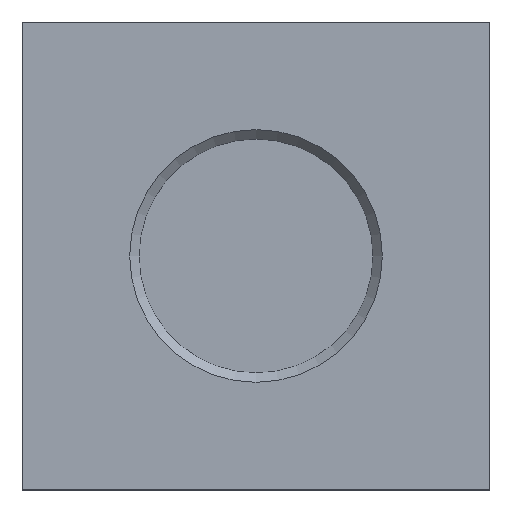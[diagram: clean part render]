
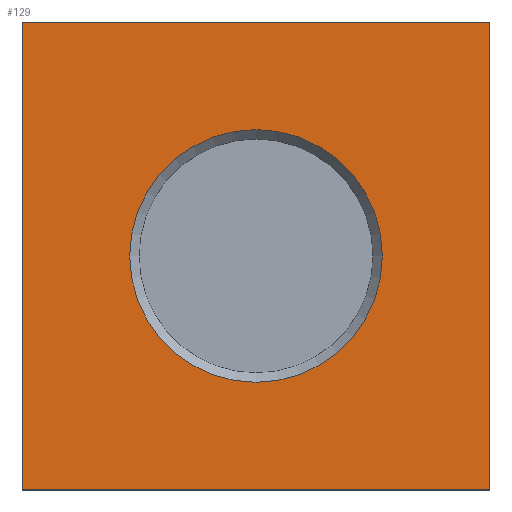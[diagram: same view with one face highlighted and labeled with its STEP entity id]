
A CAD part, top view. The second image highlights one B-rep face of the part: STEP entity #129.
In plain terms, the highlighted planar face has unit normal (0, 0, 1).
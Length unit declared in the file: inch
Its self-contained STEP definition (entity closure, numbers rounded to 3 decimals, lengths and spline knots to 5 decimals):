
#24=CARTESIAN_POINT('',(-5.,4.,0.));
#25=VERTEX_POINT('',#24);
#34=CARTESIAN_POINT('',(-7.,4.,0.));
#35=VERTEX_POINT('',#34);
#36=CARTESIAN_POINT('',(0.,4.,0.));
#37=DIRECTION('',(1.,0.,0.));
#38=VECTOR('',#37,1.);
#39=LINE('',#36,#38);
#40=EDGE_CURVE('',#35,#25,#39,.T.);
#65=CARTESIAN_POINT('',(-7.,6.,0.));
#66=VERTEX_POINT('',#65);
#67=CARTESIAN_POINT('',(-7.,0.,0.));
#68=DIRECTION('',(0.,-1.,0.));
#69=VECTOR('',#68,1.);
#70=LINE('',#67,#69);
#71=EDGE_CURVE('',#66,#35,#70,.T.);
#95=ORIENTED_EDGE('',*,*,#40,.T.);
#96=CARTESIAN_POINT('',(-5.,6.,0.));
#97=VERTEX_POINT('',#96);
#98=CARTESIAN_POINT('',(-5.,0.,0.));
#99=DIRECTION('',(0.,1.,0.));
#100=VECTOR('',#99,1.);
#101=LINE('',#98,#100);
#102=EDGE_CURVE('',#25,#97,#101,.T.);
#103=ORIENTED_EDGE('',*,*,#102,.T.);
#104=CARTESIAN_POINT('',(0.,6.,0.));
#105=DIRECTION('',(-1.,0.,0.));
#106=VECTOR('',#105,1.);
#107=LINE('',#104,#106);
#108=EDGE_CURVE('',#97,#66,#107,.T.);
#109=ORIENTED_EDGE('',*,*,#108,.T.);
#110=ORIENTED_EDGE('',*,*,#71,.T.);
#111=EDGE_LOOP('',(#95,#103,#109,#110));
#112=FACE_OUTER_BOUND('',#111,.T.);
#113=CARTESIAN_POINT('',(-5.46,5.,0.));
#114=VERTEX_POINT('',#113);
#115=CARTESIAN_POINT('',(-6.,5.,0.));
#116=DIRECTION('',(0.,0.,-1.));
#117=DIRECTION('',(1.,0.,0.));
#118=AXIS2_PLACEMENT_3D('',#115,#116,#117);
#119=CIRCLE('',#118,0.54);
#120=EDGE_CURVE('',#114,#114,#119,.T.);
#121=ORIENTED_EDGE('',*,*,#120,.T.);
#122=EDGE_LOOP('',(#121));
#123=FACE_BOUND('',#122,.T.);
#124=CARTESIAN_POINT('',(0.,0.,0.));
#125=DIRECTION('',(0.,0.,1.));
#126=DIRECTION('',(1.,0.,0.));
#127=AXIS2_PLACEMENT_3D('',#124,#125,#126);
#128=PLANE('',#127);
#129=ADVANCED_FACE('',(#112,#123),#128,.T.);
